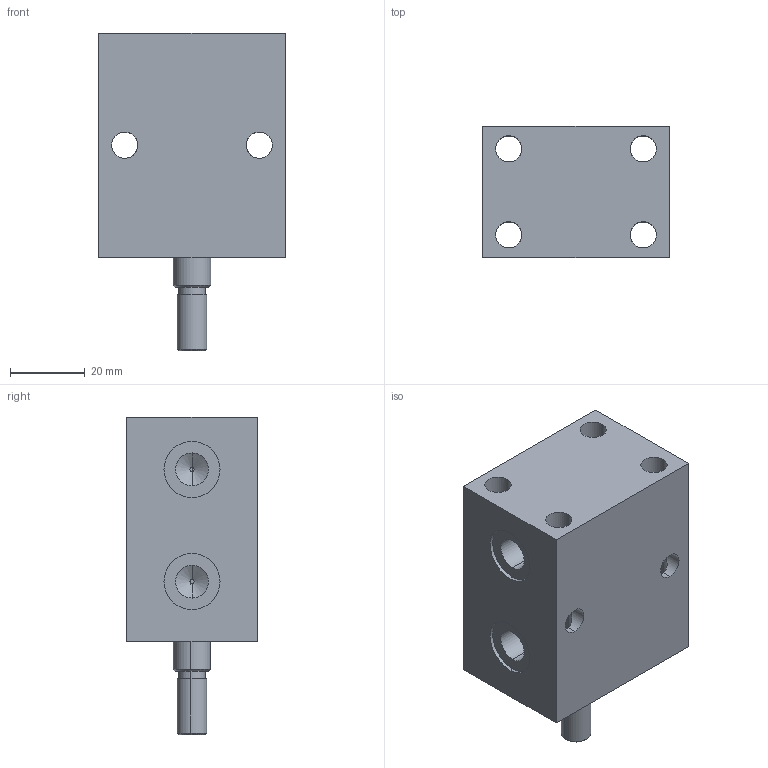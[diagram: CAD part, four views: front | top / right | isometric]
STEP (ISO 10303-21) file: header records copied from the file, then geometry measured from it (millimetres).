
FILE_DESCRIPTION (( 'STEP AP203' ), '1' );
FILE_NAME ('Block cylinder B01C-001M.STEP', '2022-07-09T17:52:47', ( '' ), ( '' ), 'SwSTEP 2.0', 'SolidWorks 2017', '' );
FILE_SCHEMA (( 'CONFIG_CONTROL_DESIGN' ));
Length unit declared in the file: millimetre
Products named in the file (3): Body_001M; Piston_001M; Block cylinder B01C-001M
Assembly tree (2 placements, depth 2):
  Block cylinder B01C-001M
    Body_001M
    Piston_001M
Bounding box: 50 x 35 x 85 mm (x, y, z)
Volume: 91391.2 mm3; surface area: 24033.6 mm2
Topology: 2 solids, 2 shells, 351 faces, 954 edges, 624 vertices
Faces by surface type: bspline 157, plane 140, cylinder 46, cone 8
Entity records: 17701 total; most frequent: CARTESIAN_POINT 9641, ORIENTED_EDGE 1908, DIRECTION 1066, EDGE_CURVE 954, VERTEX_POINT 624, LINE 540, VECTOR 540, EDGE_LOOP 392
